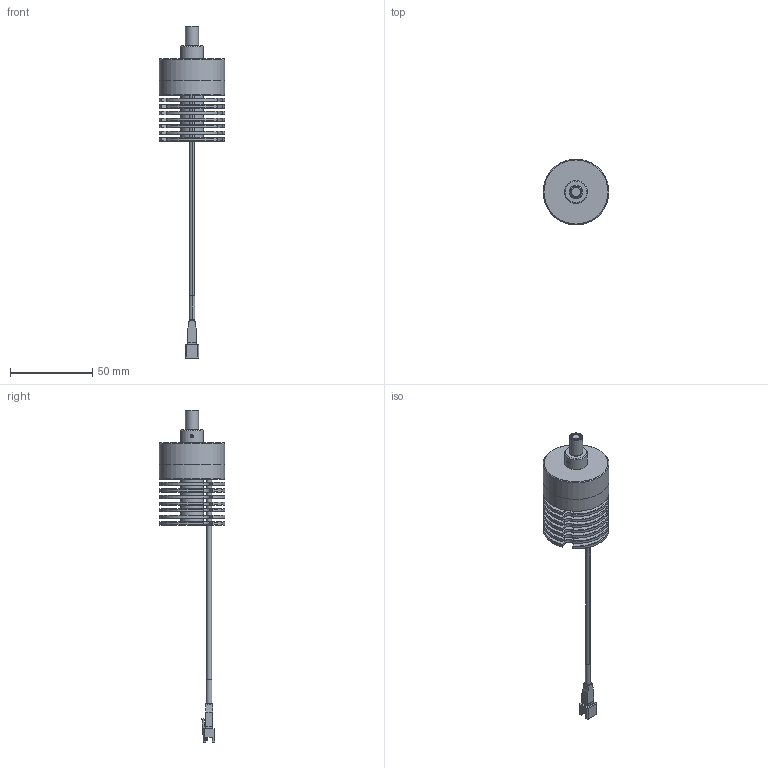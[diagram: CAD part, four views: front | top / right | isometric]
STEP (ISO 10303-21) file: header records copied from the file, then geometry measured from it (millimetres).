
FILE_DESCRIPTION (( 'STEP AP203' ), '1' );
FILE_NAME ('VSP-A2-2P_Drawing_L1225 - A00100.STEP', '2024-02-20T08:44:58', ( '' ), ( '' ), 'SwSTEP 2.0', 'SolidWorks 2020', '' );
FILE_SCHEMA (( 'CONFIG_CONTROL_DESIGN' ));
Length unit declared in the file: millimetre
Products named in the file (9): HLR243DWH01A_3D_VL-CSH035.step; VSP-A2-2P_Drawing_L1225 - A00100; 10W BARREL; LSD均勻擴散片; JST SMR-02V-B + 熱縮套管 + 24 AWG 導線; 2P.step; 止付螺絲 M2 x 3.5; HEAT SINK; 內六角螺絲 M3 x 10
Assembly tree (9 placements, depth 4):
  VSP-A2-2P_Drawing_L1225 - A00100
    10W BARREL
    LSD均勻擴散片
    HEAT SINK
    內六角螺絲 M3 x 10  x2
    JST SMR-02V-B + 熱縮套管 + 24 AWG 導線
      HLR243DWH01A_3D_VL-CSH035.step
        2P.step
    止付螺絲 M2 x 3.5
Bounding box: 40 x 40 x 202.01 mm (x, y, z)
Volume: 46427.6 mm3; surface area: 29053.9 mm2
Topology: 9 solids, 9 shells, 423 faces, 1068 edges, 695 vertices
Faces by surface type: plane 262, cylinder 93, cone 55, torus 9, bspline 4
Full cylindrical faces by diameter (mm): 1.5 x1, 2 x1, 2.4 x1, 3 x2, 3.5 x3, 5 x7, 5.3 x1, 5.5 x2, 6 x3, 6.45 x1, 6.5 x1, 8 x1, 14 x8, 37.4 x1, 38.6 x1, 38.8 x1, 40 x2
Entity records: 13214 total; most frequent: CARTESIAN_POINT 2743, ORIENTED_EDGE 1942, DIRECTION 1887, EDGE_CURVE 971, AXIS2_PLACEMENT_3D 666, VERTEX_POINT 662, LINE 555, VECTOR 555
